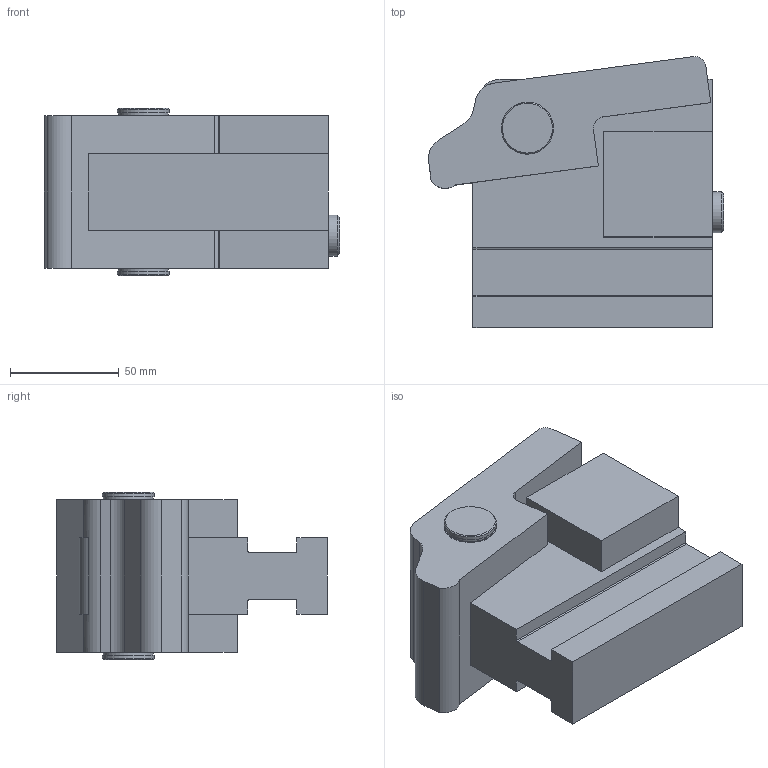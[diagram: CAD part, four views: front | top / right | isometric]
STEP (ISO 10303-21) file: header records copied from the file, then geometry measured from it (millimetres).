
FILE_DESCRIPTION(/* description */ (''),/* implementation_level */ '2;1');
FILE_NAME(/* name */ 'P:\Standard products\2. QDC Clamping Systems\11. ELY - Rocker Clamp\ELY Standard range\3d step files\ELY40_S (11-08-22).stp',/* time_stamp */ '2022-08-11T15:45:39+02:00',/* author */ ('schothorsth'),/* organization */ (''),/* preprocessor_version */ 'ST-DEVELOPER v17.2',/* originating_system */ 'Autodesk Inventor 2019',/* authorisation */ '');
FILE_SCHEMA (('AUTOMOTIVE_DESIGN { 1 0 10303 214 3 1 1 }'));
Length unit declared in the file: millimetre
Products named in the file (1): ELY40_S (11-08-22)
Bounding box: 135.57 x 124.41 x 77 mm (x, y, z)
Volume: 670767.6 mm3; surface area: 65241.9 mm2
Topology: 1 solids, 1 shells, 66 faces, 180 edges, 123 vertices
Faces by surface type: plane 44, cylinder 19, cone 3
Full cylindrical faces by diameter (mm): 18.8 x1, 22.9 x2, 23.95 x4
Entity records: 2245 total; most frequent: CARTESIAN_POINT 370, DIRECTION 369, ORIENTED_EDGE 360, EDGE_CURVE 180, LINE 125, VECTOR 125, VERTEX_POINT 123, AXIS2_PLACEMENT_3D 122
